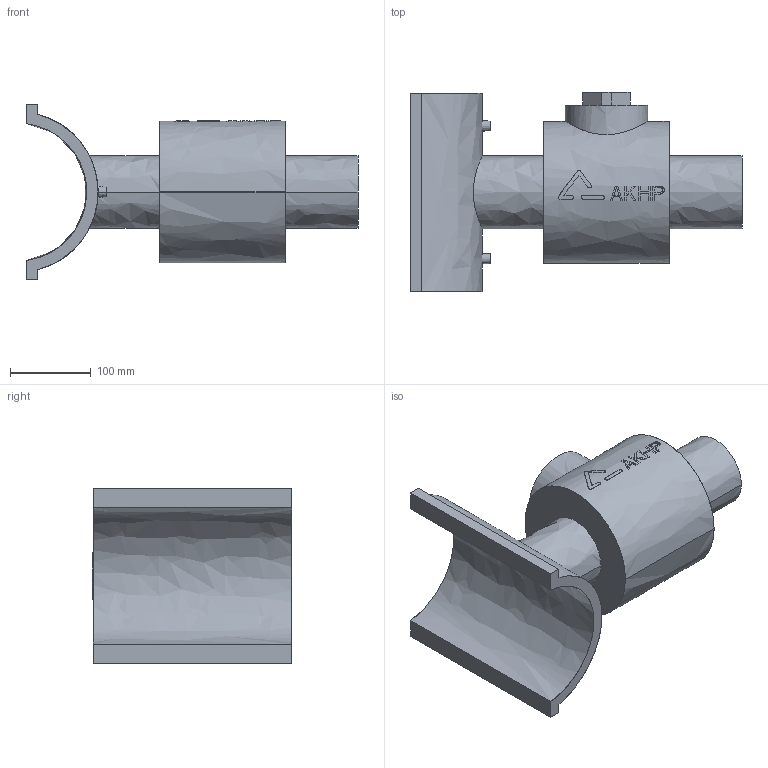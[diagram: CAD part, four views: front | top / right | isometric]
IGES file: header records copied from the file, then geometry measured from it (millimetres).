
Start section:  PTC IGES file: akhp_d160_d90.igs
Global section: file name: akhp_d160_d90.igs; native system: Pro/ENGINEER by Parametric Technology Corporation; preprocessor: 2006140; author: muellerc; organization: Unknown; date: 20060811.095527; units: millimetre
Bounding box: 410 x 246 x 217 mm (x, y, z)
Surface area: 340690.6 mm2 (no closed solid volume)
Topology: 0 solids, 0 shells, 123 faces, 674 edges, 680 vertices
Faces by surface type: bspline 123
